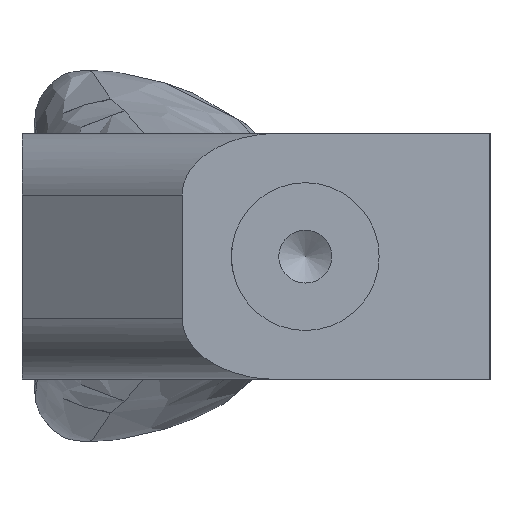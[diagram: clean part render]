
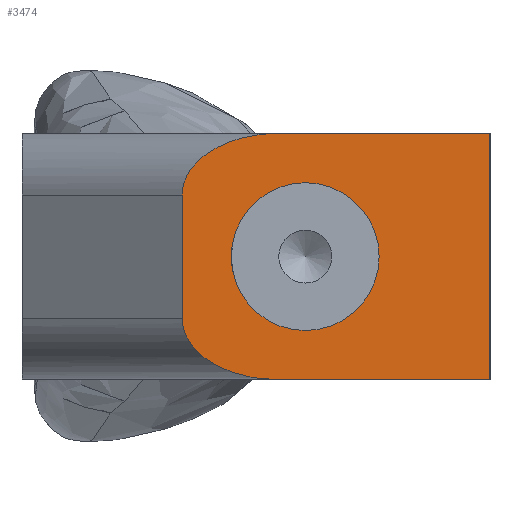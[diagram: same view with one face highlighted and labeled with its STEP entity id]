
A CAD part, left-side view. The second image highlights one B-rep face of the part: STEP entity #3474.
In plain terms, the highlighted planar face has unit normal (-1, 0, 0).
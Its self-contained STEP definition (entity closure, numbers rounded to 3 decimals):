
#84=CIRCLE('',#3778,6.);
#252=FACE_BOUND('',#657,.T.);
#457=FACE_OUTER_BOUND('',#656,.T.);
#656=EDGE_LOOP('',(#2404,#2405,#2406,#2407,#2408,#2409));
#657=EDGE_LOOP('',(#2410));
#891=LINE('',#5435,#1166);
#894=LINE('',#5441,#1169);
#895=LINE('',#5443,#1170);
#896=LINE('',#5445,#1171);
#1166=VECTOR('',#4210,10.);
#1169=VECTOR('',#4215,10.);
#1170=VECTOR('',#4216,10.);
#1171=VECTOR('',#4217,10.);
#1423=ELLIPSE('',#3796,7.779,5.);
#1424=ELLIPSE('',#3799,7.779,5.);
#1448=VERTEX_POINT('',#5240);
#1468=VERTEX_POINT('',#5428);
#1469=VERTEX_POINT('',#5430);
#1470=VERTEX_POINT('',#5434);
#1472=VERTEX_POINT('',#5440);
#1473=VERTEX_POINT('',#5442);
#1474=VERTEX_POINT('',#5444);
#1811=EDGE_CURVE('',#1448,#1448,#84,.T.);
#1837=EDGE_CURVE('',#1468,#1469,#1423,.T.);
#1839=EDGE_CURVE('',#1469,#1470,#891,.T.);
#1842=EDGE_CURVE('',#1472,#1468,#894,.T.);
#1843=EDGE_CURVE('',#1472,#1473,#895,.T.);
#1844=EDGE_CURVE('',#1473,#1474,#896,.T.);
#1845=EDGE_CURVE('',#1470,#1474,#1424,.T.);
#2404=ORIENTED_EDGE('',*,*,#1837,.F.);
#2405=ORIENTED_EDGE('',*,*,#1842,.F.);
#2406=ORIENTED_EDGE('',*,*,#1843,.T.);
#2407=ORIENTED_EDGE('',*,*,#1844,.T.);
#2408=ORIENTED_EDGE('',*,*,#1845,.F.);
#2409=ORIENTED_EDGE('',*,*,#1839,.F.);
#2410=ORIENTED_EDGE('',*,*,#1811,.T.);
#3375=PLANE('',#3798);
#3474=ADVANCED_FACE('',(#457,#252),#3375,.T.);
#3778=AXIS2_PLACEMENT_3D('',#5242,#4163,#4164);
#3796=AXIS2_PLACEMENT_3D('',#5431,#4205,#4206);
#3798=AXIS2_PLACEMENT_3D('',#5439,#4213,#4214);
#3799=AXIS2_PLACEMENT_3D('',#5446,#4218,#4219);
#4163=DIRECTION('center_axis',(1.,0.,0.));
#4164=DIRECTION('ref_axis',(0.,0.,1.));
#4205=DIRECTION('center_axis',(1.,0.,0.));
#4206=DIRECTION('ref_axis',(0.,1.,0.));
#4210=DIRECTION('',(0.,0.,1.));
#4213=DIRECTION('center_axis',(-1.,0.,0.));
#4214=DIRECTION('ref_axis',(0.,0.,1.));
#4215=DIRECTION('',(0.,1.,0.));
#4216=DIRECTION('',(0.,0.,1.));
#4217=DIRECTION('',(0.,1.,0.));
#4218=DIRECTION('center_axis',(1.,0.,0.));
#4219=DIRECTION('ref_axis',(0.,1.,0.));
#5240=CARTESIAN_POINT('',(1033.56,73.403,4.));
#5242=CARTESIAN_POINT('Origin',(1033.56,73.403,10.));
#5428=CARTESIAN_POINT('',(1033.56,75.624,0.));
#5430=CARTESIAN_POINT('',(1033.56,83.403,5.));
#5431=CARTESIAN_POINT('Origin',(1033.56,75.624,5.));
#5434=CARTESIAN_POINT('',(1033.56,83.403,15.));
#5435=CARTESIAN_POINT('',(1033.56,83.403,0.));
#5439=CARTESIAN_POINT('Origin',(1033.56,58.403,0.));
#5440=CARTESIAN_POINT('',(1033.56,58.403,0.));
#5441=CARTESIAN_POINT('',(1033.56,58.403,0.));
#5442=CARTESIAN_POINT('',(1033.56,58.403,20.));
#5443=CARTESIAN_POINT('',(1033.56,58.403,0.));
#5444=CARTESIAN_POINT('',(1033.56,75.624,20.));
#5445=CARTESIAN_POINT('',(1033.56,58.403,20.));
#5446=CARTESIAN_POINT('Origin',(1033.56,75.624,15.));
